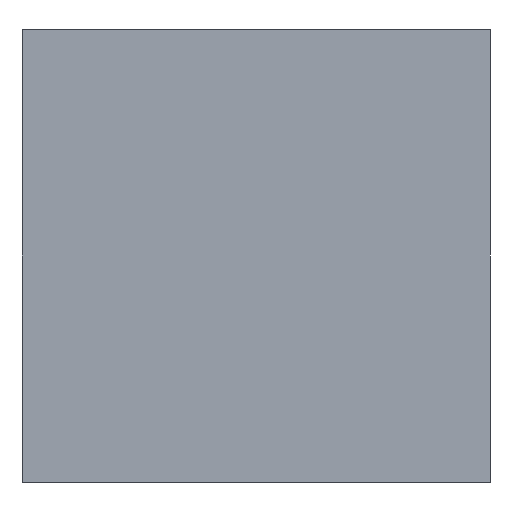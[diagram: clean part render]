
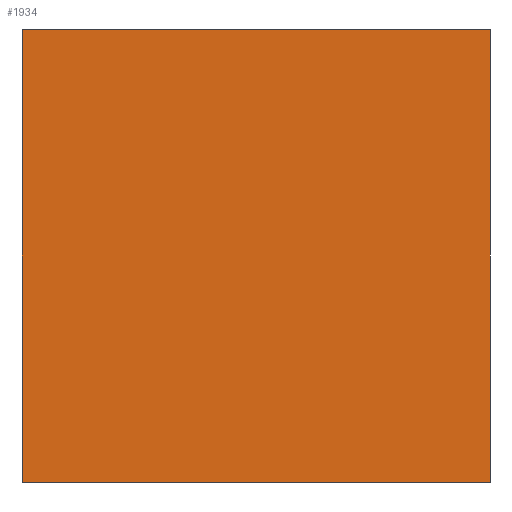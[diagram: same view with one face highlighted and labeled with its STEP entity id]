
A CAD part, left-side view. The second image highlights one B-rep face of the part: STEP entity #1934.
In plain terms, the highlighted planar face has unit normal (-1, 0, 0).
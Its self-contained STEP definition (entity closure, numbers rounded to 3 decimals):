
#33 = ORIENTED_EDGE ( 'NONE', *, *, #1831, .F. ) ;
#68 = CARTESIAN_POINT ( 'NONE',  ( -182., -25.5, 49.3 ) ) ;
#245 = CARTESIAN_POINT ( 'NONE',  ( -182., 25.5, 49.3 ) ) ;
#577 = DIRECTION ( 'NONE',  ( 0., 0., -1. ) ) ;
#622 = DIRECTION ( 'NONE',  ( 0., 0., -1. ) ) ;
#716 = LINE ( 'NONE', #1719, #3376 ) ;
#786 = CARTESIAN_POINT ( 'NONE',  ( -182., -25.5, 0. ) ) ;
#1083 = DIRECTION ( 'NONE',  ( 0., -1., 0. ) ) ;
#1121 = FACE_OUTER_BOUND ( 'NONE', #1725, .T. ) ;
#1191 = VERTEX_POINT ( 'NONE', #2355 ) ;
#1390 = CARTESIAN_POINT ( 'NONE',  ( -182., -25.5, 49.3 ) ) ;
#1510 = VERTEX_POINT ( 'NONE', #1390 ) ;
#1577 = VECTOR ( 'NONE', #2149, 1000. ) ;
#1592 = EDGE_CURVE ( 'NONE', #1191, #1510, #1938, .T. ) ;
#1633 = ORIENTED_EDGE ( 'NONE', *, *, #3441, .T. ) ;
#1663 = LINE ( 'NONE', #245, #1577 ) ;
#1719 = CARTESIAN_POINT ( 'NONE',  ( -182., -25.5, 49.3 ) ) ;
#1725 = EDGE_LOOP ( 'NONE', ( #1633, #33, #2916, #3119 ) ) ;
#1831 = EDGE_CURVE ( 'NONE', #1510, #2560, #716, .T. ) ;
#1934 = ADVANCED_FACE ( 'NONE', ( #1121 ), #2221, .F. ) ;
#1938 = LINE ( 'NONE', #2504, #3184 ) ;
#1940 = DIRECTION ( 'NONE',  ( 0., -1., 0. ) ) ;
#1975 = DIRECTION ( 'NONE',  ( 1., 0., 0. ) ) ;
#1978 = CARTESIAN_POINT ( 'NONE',  ( -182., -25.5, 0. ) ) ;
#2121 = VERTEX_POINT ( 'NONE', #2835 ) ;
#2149 = DIRECTION ( 'NONE',  ( 0., 0., -1. ) ) ;
#2221 = PLANE ( 'NONE',  #3342 ) ;
#2355 = CARTESIAN_POINT ( 'NONE',  ( -182., 25.5, 49.3 ) ) ;
#2504 = CARTESIAN_POINT ( 'NONE',  ( -182., -25.5, 49.3 ) ) ;
#2560 = VERTEX_POINT ( 'NONE', #1978 ) ;
#2623 = VECTOR ( 'NONE', #1083, 1000. ) ;
#2835 = CARTESIAN_POINT ( 'NONE',  ( -182., 25.5, 0. ) ) ;
#2916 = ORIENTED_EDGE ( 'NONE', *, *, #1592, .F. ) ;
#3119 = ORIENTED_EDGE ( 'NONE', *, *, #3380, .T. ) ;
#3184 = VECTOR ( 'NONE', #1940, 1000. ) ;
#3342 = AXIS2_PLACEMENT_3D ( 'NONE', #68, #1975, #622 ) ;
#3364 = LINE ( 'NONE', #786, #2623 ) ;
#3376 = VECTOR ( 'NONE', #577, 1000. ) ;
#3380 = EDGE_CURVE ( 'NONE', #1191, #2121, #1663, .T. ) ;
#3441 = EDGE_CURVE ( 'NONE', #2121, #2560, #3364, .T. ) ;
